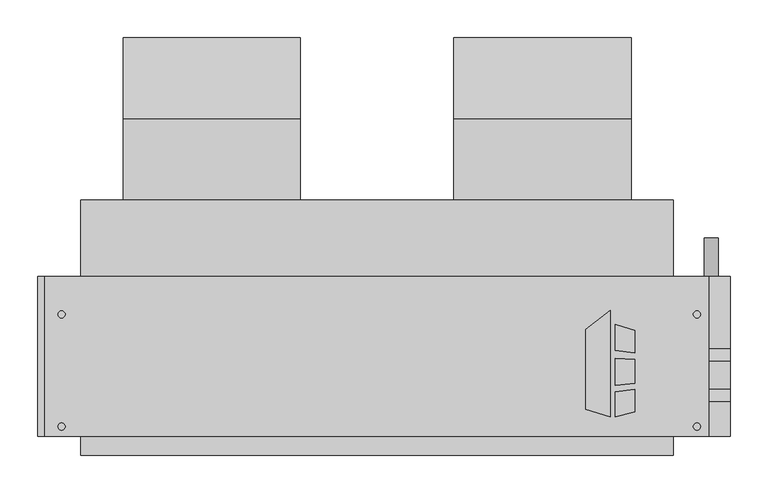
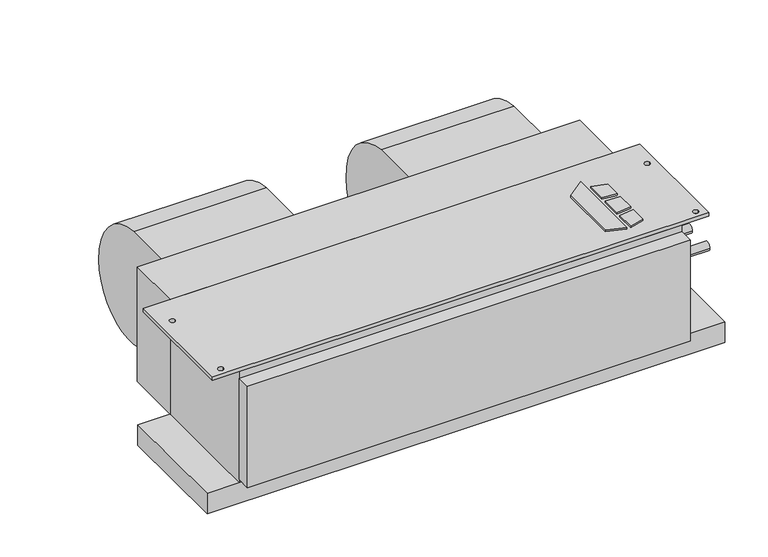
"""IFC4 building model written with IfcOpenShell, lengths in millimetres: proxy geometry, Concealed_Horizontal_Fan_Coil_Unit_-_CHY_-_IEC_-_2-Pipe_Cool-EHeat_RH_2022 : Size 06 - 277v/60Hz/1Ph - 4 Row 6.0kW."""

from ifc_helpers import new_model, si_unit, point, frame, frame_2d, origin, origin_with_axes, place, context, project, spatial, polyline, circle_curve, trimmed, segment, composite_curve, outline, extrude, source, transform, mapped, element, save


def mechanical_equipment_06ff4b7f(model_context):
    return source(origin(), model_context, "Body", "SweptSolid", [
        extrude(outline(polyline([(429.9019761, -202.5703476), (462.4602728, -177.1330184), (462.4602728, -319.0875), (429.9019761, -308.8679201), (429.9019761, -202.5703476)])), origin_with_axes(), (0.0, 0.0, 1.0), 3.175),
        extrude(outline(polyline([(469.2186058, -230.442352), (469.2186058, -195.9624379), (495.3, -204.1490115), (495.3, -233.6447446), (469.2186058, -230.442352)])), origin_with_axes(), (0.0, 0.0, 1.0), 3.175),
        extrude(outline(polyline([(495.3, -312.0990115), (469.2186058, -319.0875), (469.2186058, -285.8661996), (495.3, -282.3243564), (495.3, -312.0990115)])), origin_with_axes(), (0.0, 0.0, 1.0), 3.175),
        extrude(outline(polyline([(495.3, -242.7263277), (495.3, -273.976483), (469.2186058, -276.717748), (469.2186058, -240.8600378), (495.3, -242.7263277)])), origin_with_axes(), (0.0, 0.0, 1.0), 3.175),
        extrude(outline(composite_curve([segment(trimmed(circle_curve(frame_2d((68.401169, -136.0299844)), 117.3559541), [point((77.7875, -19.05))], [point((185.7375, -138.176))], False, "CARTESIAN"), True, "CONTINUOUS"), segment(trimmed(circle_curve(frame_2d((90.0022663, -136.4250563)), 95.7512443), [point((185.7375, -138.176))], [point((77.7875, -231.394))], False, "CARTESIAN"), True, "CONTINUOUS"), segment(trimmed(circle_curve(frame_2d((89.9711869, -136.6666968)), 95.5076133), [point((77.7875, -231.394))], [point((-5.5245, -138.176))], False, "CARTESIAN"), True, "CONTINUOUS"), segment(trimmed(circle_curve(frame_2d((-24.6059828, -138.4775816)), 19.0838659), [point((-5.5245, -138.176))], [point((-17.7963373, -120.65))], True, "CARTESIAN"), True, "CONTINUOUS"), segment(polyline([(-17.7963373, -120.65), (-30.1625, -120.65), (-30.1625, -19.05), (77.7875, -19.05)]), True, "CONTINUOUS")], self_intersect=False)), frame((254.8255, 0.0, 0.0), z_axis=(1.0, 0.0, 0.0), x_axis=(0.0, 1.0, 0.0)), (0.0, 0.0, 1.0), 235.712),
        extrude(outline(composite_curve([segment(trimmed(circle_curve(frame_2d((68.401169, -136.0299844)), 117.3559541), [point((77.7875, -19.05))], [point((185.7375, -138.176))], False, "CARTESIAN"), True, "CONTINUOUS"), segment(trimmed(circle_curve(frame_2d((90.0022663, -136.4250563)), 95.7512443), [point((185.7375, -138.176))], [point((77.7875, -231.394))], False, "CARTESIAN"), True, "CONTINUOUS"), segment(trimmed(circle_curve(frame_2d((89.9711869, -136.6666968)), 95.5076133), [point((77.7875, -231.394))], [point((-5.5245, -138.176))], False, "CARTESIAN"), True, "CONTINUOUS"), segment(trimmed(circle_curve(frame_2d((-24.6059828, -138.4775816)), 19.0838659), [point((-5.5245, -138.176))], [point((-17.7963373, -120.65))], True, "CARTESIAN"), True, "CONTINUOUS"), segment(polyline([(-17.7963373, -120.65), (-30.1625, -120.65), (-30.1625, -19.05), (77.7875, -19.05)]), True, "CONTINUOUS")], self_intersect=False)), frame((-184.912, 0.0, 0.0), z_axis=(1.0, 0.0, 0.0), x_axis=(0.0, 1.0, 0.0)), (0.0, 0.0, 1.0), 235.712),
        extrude(outline(polyline([(593.725, -131.7625), (593.725, -344.4875), (-288.925, -344.4875), (-288.925, -131.7625), (593.725, -131.7625)]), holes=[composite_curve([segment(trimmed(circle_curve(frame_2d((-266.7, -182.5625)), 4.7625), [point((-271.4625, -182.5625))], [point((-261.9375, -182.5625))], True, "CARTESIAN"), True, "CONTINUOUS"), segment(trimmed(circle_curve(frame_2d((-266.7, -182.5625)), 4.7625), [point((-261.9375, -182.5625))], [point((-271.4625, -182.5625))], True, "CARTESIAN"), True, "CONTINUOUS")], self_intersect=False), composite_curve([segment(trimmed(circle_curve(frame_2d((-266.7, -331.7875)), 4.7625), [point((-271.4625, -331.7875))], [point((-261.9375, -331.7875))], True, "CARTESIAN"), True, "CONTINUOUS"), segment(trimmed(circle_curve(frame_2d((-266.7, -331.7875)), 4.7625), [point((-261.9375, -331.7875))], [point((-271.4625, -331.7875))], True, "CARTESIAN"), True, "CONTINUOUS")], self_intersect=False), composite_curve([segment(trimmed(circle_curve(frame_2d((577.85, -182.5625)), 4.7625), [point((573.0875, -182.5625))], [point((582.6125, -182.5625))], True, "CARTESIAN"), True, "CONTINUOUS"), segment(trimmed(circle_curve(frame_2d((577.85, -182.5625)), 4.7625), [point((582.6125, -182.5625))], [point((573.0875, -182.5625))], True, "CARTESIAN"), True, "CONTINUOUS")], self_intersect=False), composite_curve([segment(trimmed(circle_curve(frame_2d((577.85, -331.7875)), 4.7625), [point((573.0875, -331.7875))], [point((582.6125, -331.7875))], True, "CARTESIAN"), True, "CONTINUOUS"), segment(trimmed(circle_curve(frame_2d((577.85, -331.7875)), 4.7625), [point((582.6125, -331.7875))], [point((573.0875, -331.7875))], True, "CARTESIAN"), True, "CONTINUOUS")], self_intersect=False)]), frame((0.0, 0.0, -6.35), z_axis=(0.0, 0.0, 1.0), x_axis=(1.0, 0.0, 0.0)), (0.0, 0.0, 1.0), 6.35),
        extrude(outline(polyline([(-241.3, -30.1625), (546.1, -30.1625), (546.1, -131.7625), (-241.3, -131.7625), (-241.3, -30.1625)])), frame((0.0, 0.0, -215.9), z_axis=(0.0, 0.0, 1.0), x_axis=(1.0, 0.0, 0.0)), (0.0, 0.0, 1.0), 215.9),
        extrude(outline(composite_curve([segment(trimmed(circle_curve(frame_2d((-241.3, 596.9)), 9.525), [point((-241.3, 587.375))], [point((-241.3, 606.425))], False, "CARTESIAN"), True, "CONTINUOUS"), segment(trimmed(circle_curve(frame_2d((-241.3, 596.9)), 9.525), [point((-241.3, 606.425))], [point((-241.3, 587.375))], False, "CARTESIAN"), True, "CONTINUOUS")], self_intersect=False)), frame((0.0, -131.7625, 0.0), z_axis=(0.0, 1.0, 0.0), x_axis=(0.0, 0.0, 1.0)), (0.0, 0.0, 1.0), 50.8),
        extrude(outline(polyline([(546.1, -369.8875), (-241.3, -369.8875), (-241.3, -344.4875), (546.1, -344.4875), (546.1, -369.8875)])), frame((0.0, 0.0, -209.55), z_axis=(0.0, 0.0, 1.0), x_axis=(1.0, 0.0, 0.0)), (0.0, 0.0, 1.0), 190.5),
        extrude(outline(polyline([(622.3, -131.7625), (622.3, -344.4875), (-298.45, -344.4875), (-298.45, -131.7625), (622.3, -131.7625)])), frame((0.0, 0.0, -254.0), z_axis=(0.0, 0.0, 1.0), x_axis=(1.0, 0.0, 0.0)), (0.0, 0.0, 1.0), 38.1),
        extrude(outline(composite_curve([segment(trimmed(circle_curve(frame_2d((-290.5125, -104.775)), 7.9375), [point((-298.45, -104.775))], [point((-282.575, -104.775))], False, "CARTESIAN"), True, "CONTINUOUS"), segment(trimmed(circle_curve(frame_2d((-290.5125, -104.775)), 7.9375), [point((-282.575, -104.775))], [point((-298.45, -104.775))], False, "CARTESIAN"), True, "CONTINUOUS")], self_intersect=False)), frame((546.1, 0.0, 0.0), z_axis=(1.0, 0.0, 0.0), x_axis=(0.0, 1.0, 0.0)), (0.0, 0.0, 1.0), 76.2),
        extrude(outline(composite_curve([segment(trimmed(circle_curve(frame_2d((-236.5375, -104.775)), 7.9375), [point((-244.475, -104.775))], [point((-228.6, -104.775))], False, "CARTESIAN"), True, "CONTINUOUS"), segment(trimmed(circle_curve(frame_2d((-236.5375, -104.775)), 7.9375), [point((-228.6, -104.775))], [point((-244.475, -104.775))], False, "CARTESIAN"), True, "CONTINUOUS")], self_intersect=False)), frame((546.1, 0.0, 0.0), z_axis=(1.0, 0.0, 0.0), x_axis=(0.0, 1.0, 0.0)), (0.0, 0.0, 1.0), 76.2),
        extrude(outline(polyline([(546.1, -344.4875), (-241.3, -344.4875), (-241.3, -131.7625), (546.1, -131.7625), (546.1, -344.4875)])), frame((0.0, 0.0, -215.9), z_axis=(0.0, 0.0, 1.0), x_axis=(1.0, 0.0, 0.0)), (0.0, 0.0, 1.0), 209.55),
    ])


if __name__ == "__main__":
    model = new_model("IFC4")
    model_context = context("Model", 3, world=origin())
    ifc_project = project(units=[si_unit("LENGTHUNIT", "METRE", prefix="MILLI")], contexts=[model_context])
    site = spatial("IfcSite", under=ifc_project)
    building = spatial("IfcBuilding", under=site)
    placement = place(None, origin())
    mechanical_equipment_shape = mechanical_equipment_06ff4b7f(model_context)
    element("IfcBuildingElementProxy", 1, Name="Concealed_Horizontal_Fan_Coil_Unit_-_CHY_-_IEC_-_2-Pipe_Cool-EHeat_RH_2022 : Size 06 - 277v/60Hz/1Ph - 4 Row 6.0kW", ObjectType="Concealed_Horizontal_Fan_Coil_Unit_-_CHY_-_IEC_-_2-Pipe_Cool-EHeat_RH_2022 : Size 06 - 277v/60Hz/1Ph - 4 Row 6.0kW", at=placement, inside=building, context=model_context, shape_type="MappedRepresentation", body=[
        mapped(mechanical_equipment_shape, transform((0.0, 0.0, 0.0), x_axis=(1.0, 0.0, 0.0), y_axis=(0.0, 1.0, 0.0), z_axis=(0.0, 0.0, 1.0))),
    ])
    save(model, "model.ifc")
